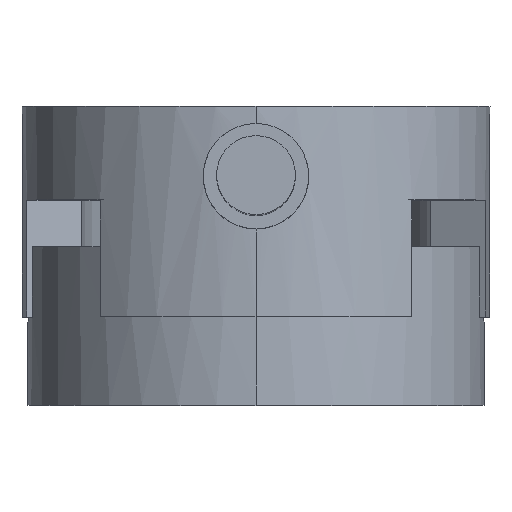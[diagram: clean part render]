
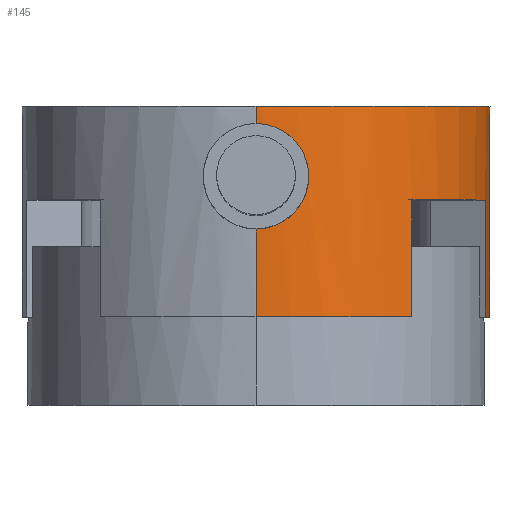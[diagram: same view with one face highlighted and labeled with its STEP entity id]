
A CAD part, top view. The second image highlights one B-rep face of the part: STEP entity #145.
In plain terms, the highlighted cylindrical face has radius 5.08 mm (diameter 10.16 mm), a partial arc.
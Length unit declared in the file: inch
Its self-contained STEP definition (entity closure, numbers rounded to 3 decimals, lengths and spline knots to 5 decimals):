
#32 = ORIENTED_EDGE ( 'NONE', *, *, #124, .F. ) ;
#33 = VERTEX_POINT ( 'NONE', #1243 ) ;
#76 = EDGE_CURVE ( 'NONE', #99, #33, #1122, .T. ) ;
#78 = ORIENTED_EDGE ( 'NONE', *, *, #76, .F. ) ;
#80 = EDGE_CURVE ( 'NONE', #149, #138, #1115, .T. ) ;
#81 = EDGE_CURVE ( 'NONE', #82, #151, #1110, .T. ) ;
#82 = VERTEX_POINT ( 'NONE', #1105 ) ;
#83 = ORIENTED_EDGE ( 'NONE', *, *, #84, .T. ) ;
#84 = EDGE_CURVE ( 'NONE', #82, #146, #1104, .T. ) ;
#94 = VERTEX_POINT ( 'NONE', #1049 ) ;
#95 = EDGE_CURVE ( 'NONE', #97, #94, #1048, .T. ) ;
#96 = ORIENTED_EDGE ( 'NONE', *, *, #95, .F. ) ;
#97 = VERTEX_POINT ( 'NONE', #1044 ) ;
#98 = VERTEX_POINT ( 'NONE', #1043 ) ;
#99 = VERTEX_POINT ( 'NONE', #1042 ) ;
#100 = ORIENTED_EDGE ( 'NONE', *, *, #101, .T. ) ;
#101 = EDGE_CURVE ( 'NONE', #98, #194, #1041, .T. ) ;
#102 = EDGE_CURVE ( 'NONE', #146, #94, #1037, .T. ) ;
#108 = EDGE_LOOP ( 'NONE', ( #134, #100, #144, #143, #137, #139, #141, #140, #83, #147, #96, #32, #78 ) ) ;
#124 = EDGE_CURVE ( 'NONE', #33, #97, #432, .T. ) ;
#134 = ORIENTED_EDGE ( 'NONE', *, *, #152, .F. ) ;
#136 = VERTEX_POINT ( 'NONE', #477 ) ;
#137 = ORIENTED_EDGE ( 'NONE', *, *, #148, .T. ) ;
#138 = VERTEX_POINT ( 'NONE', #446 ) ;
#139 = ORIENTED_EDGE ( 'NONE', *, *, #80, .T. ) ;
#140 = ORIENTED_EDGE ( 'NONE', *, *, #81, .F. ) ;
#141 = ORIENTED_EDGE ( 'NONE', *, *, #150, .F. ) ;
#142 = EDGE_CURVE ( 'NONE', #136, #196, #441, .T. ) ;
#143 = ORIENTED_EDGE ( 'NONE', *, *, #142, .F. ) ;
#144 = ORIENTED_EDGE ( 'NONE', *, *, #170, .F. ) ;
#145 = ADVANCED_FACE ( 'NONE', ( #458 ), #442, .T. ) ;
#146 = VERTEX_POINT ( 'NONE', #471 ) ;
#147 = ORIENTED_EDGE ( 'NONE', *, *, #102, .T. ) ;
#148 = EDGE_CURVE ( 'NONE', #136, #149, #468, .T. ) ;
#149 = VERTEX_POINT ( 'NONE', #464 ) ;
#150 = EDGE_CURVE ( 'NONE', #151, #138, #463, .T. ) ;
#151 = VERTEX_POINT ( 'NONE', #454 ) ;
#152 = EDGE_CURVE ( 'NONE', #98, #99, #452, .T. ) ;
#170 = EDGE_CURVE ( 'NONE', #196, #194, #556, .T. ) ;
#194 = VERTEX_POINT ( 'NONE', #523 ) ;
#196 = VERTEX_POINT ( 'NONE', #522 ) ;
#432 = CIRCLE ( 'NONE', #433, 0.2 ) ;
#433 = AXIS2_PLACEMENT_3D ( 'NONE', #488, #462, #444 ) ;
#439 = CARTESIAN_POINT ( 'NONE',  ( 0., 0.18, 0. ) ) ;
#440 = AXIS2_PLACEMENT_3D ( 'NONE', #439, #470, #469 ) ;
#441 = B_SPLINE_CURVE_WITH_KNOTS ( 'NONE', 3,
 ( #486, #483, #482, #481, #480, #476, #475, #474, #473, #472 ),
 .UNSPECIFIED., .F., .F.,
 ( 4, 2, 2, 2, 4 ),
 ( 0.00179, 0.00224, 0.00269, 0.00314, 0.00359 ),
 .UNSPECIFIED. ) ;
#442 = CYLINDRICAL_SURFACE ( 'NONE', #440, 0.2 ) ;
#444 = DIRECTION ( 'NONE',  ( 0., 0., -1. ) ) ;
#446 = CARTESIAN_POINT ( 'NONE',  ( 0.13328, 0., 0.14912 ) ) ;
#448 = DIRECTION ( 'NONE',  ( 0., 0., 1. ) ) ;
#449 = DIRECTION ( 'NONE',  ( 0., 1., 0. ) ) ;
#450 = CARTESIAN_POINT ( 'NONE',  ( 0., 0.18, 0. ) ) ;
#451 = AXIS2_PLACEMENT_3D ( 'NONE', #450, #449, #448 ) ;
#452 = CIRCLE ( 'NONE', #451, 0.2 ) ;
#454 = CARTESIAN_POINT ( 'NONE',  ( 0.13328, 0.1, 0.14912 ) ) ;
#455 = DIRECTION ( 'NONE',  ( 0., -1., 0. ) ) ;
#456 = VECTOR ( 'NONE', #455, 39.37008 ) ;
#457 = CARTESIAN_POINT ( 'NONE',  ( 0.13328, 0.1, 0.14912 ) ) ;
#458 = FACE_OUTER_BOUND ( 'NONE', #108, .T. ) ;
#462 = DIRECTION ( 'NONE',  ( 0., -1., 0. ) ) ;
#463 = LINE ( 'NONE', #457, #456 ) ;
#464 = CARTESIAN_POINT ( 'NONE',  ( 0., 0., 0.2 ) ) ;
#465 = DIRECTION ( 'NONE',  ( 0., -1., 0. ) ) ;
#466 = VECTOR ( 'NONE', #465, 39.37008 ) ;
#467 = CARTESIAN_POINT ( 'NONE',  ( 0., 0.18, 0.2 ) ) ;
#468 = LINE ( 'NONE', #467, #466 ) ;
#469 = DIRECTION ( 'NONE',  ( 0., 0., -1. ) ) ;
#470 = DIRECTION ( 'NONE',  ( 0., -1., 0. ) ) ;
#471 = CARTESIAN_POINT ( 'NONE',  ( 0.19578, 0., 0.04087 ) ) ;
#472 = CARTESIAN_POINT ( 'NONE',  ( 0.045, 0.12, 0.19487 ) ) ;
#473 = CARTESIAN_POINT ( 'NONE',  ( 0.045, 0.11412, 0.19487 ) ) ;
#474 = CARTESIAN_POINT ( 'NONE',  ( 0.04382, 0.1082, 0.19515 ) ) ;
#475 = CARTESIAN_POINT ( 'NONE',  ( 0.03931, 0.09733, 0.19611 ) ) ;
#476 = CARTESIAN_POINT ( 'NONE',  ( 0.03601, 0.09237, 0.19678 ) ) ;
#477 = CARTESIAN_POINT ( 'NONE',  ( 0., 0.075, 0.2 ) ) ;
#480 = CARTESIAN_POINT ( 'NONE',  ( 0.02766, 0.08402, 0.19812 ) ) ;
#481 = CARTESIAN_POINT ( 'NONE',  ( 0.02271, 0.0807, 0.19878 ) ) ;
#482 = CARTESIAN_POINT ( 'NONE',  ( 0.01179, 0.07617, 0.19973 ) ) ;
#483 = CARTESIAN_POINT ( 'NONE',  ( 0.00589, 0.075, 0.2 ) ) ;
#486 = CARTESIAN_POINT ( 'NONE',  ( 0., 0.075, 0.2 ) ) ;
#488 = CARTESIAN_POINT ( 'NONE',  ( 0., 0.1, 0. ) ) ;
#508 = CARTESIAN_POINT ( 'NONE',  ( 0.045, 0.12, 0.19487 ) ) ;
#515 = CARTESIAN_POINT ( 'NONE',  ( 0.0118, 0.16383, 0.19973 ) ) ;
#516 = CARTESIAN_POINT ( 'NONE',  ( 0.02274, 0.15928, 0.19878 ) ) ;
#517 = CARTESIAN_POINT ( 'NONE',  ( 0.02768, 0.15596, 0.19812 ) ) ;
#518 = CARTESIAN_POINT ( 'NONE',  ( 0.03598, 0.14766, 0.19678 ) ) ;
#522 = CARTESIAN_POINT ( 'NONE',  ( 0.045, 0.12, 0.19487 ) ) ;
#523 = CARTESIAN_POINT ( 'NONE',  ( 0., 0.165, 0.2 ) ) ;
#551 = CARTESIAN_POINT ( 'NONE',  ( 0., 0.165, 0.2 ) ) ;
#552 = CARTESIAN_POINT ( 'NONE',  ( 0.00594, 0.165, 0.2 ) ) ;
#553 = CARTESIAN_POINT ( 'NONE',  ( 0.03932, 0.14266, 0.19611 ) ) ;
#554 = CARTESIAN_POINT ( 'NONE',  ( 0.04381, 0.13182, 0.19516 ) ) ;
#555 = CARTESIAN_POINT ( 'NONE',  ( 0.045, 0.12588, 0.19487 ) ) ;
#556 = B_SPLINE_CURVE_WITH_KNOTS ( 'NONE', 3,
 ( #508, #555, #554, #553, #518, #517, #516, #515, #552, #551 ),
 .UNSPECIFIED., .F., .F.,
 ( 4, 2, 2, 2, 4 ),
 ( 0.00359, 0.00403, 0.00448, 0.00493, 0.00538 ),
 .UNSPECIFIED. ) ;
#1037 = CIRCLE ( 'NONE', #1082, 0.2 ) ;
#1038 = DIRECTION ( 'NONE',  ( 0., -1., 0. ) ) ;
#1039 = VECTOR ( 'NONE', #1038, 39.37008 ) ;
#1040 = CARTESIAN_POINT ( 'NONE',  ( 0., 0.18, 0.2 ) ) ;
#1041 = LINE ( 'NONE', #1040, #1039 ) ;
#1042 = CARTESIAN_POINT ( 'NONE',  ( 0., 0.18, -0.2 ) ) ;
#1043 = CARTESIAN_POINT ( 'NONE',  ( 0., 0.18, 0.2 ) ) ;
#1044 = CARTESIAN_POINT ( 'NONE',  ( 0.0625, 0.1, -0.18998 ) ) ;
#1045 = DIRECTION ( 'NONE',  ( 0., -1., 0. ) ) ;
#1046 = VECTOR ( 'NONE', #1045, 39.37008 ) ;
#1047 = CARTESIAN_POINT ( 'NONE',  ( 0.0625, 0.1, -0.18998 ) ) ;
#1048 = LINE ( 'NONE', #1047, #1046 ) ;
#1049 = CARTESIAN_POINT ( 'NONE',  ( 0.0625, 0., -0.18998 ) ) ;
#1079 = DIRECTION ( 'NONE',  ( 0., 0., 1. ) ) ;
#1080 = DIRECTION ( 'NONE',  ( 0., 1., 0. ) ) ;
#1081 = CARTESIAN_POINT ( 'NONE',  ( 0., 0., 0. ) ) ;
#1082 = AXIS2_PLACEMENT_3D ( 'NONE', #1081, #1080, #1079 ) ;
#1101 = DIRECTION ( 'NONE',  ( 0., -1., 0. ) ) ;
#1102 = VECTOR ( 'NONE', #1101, 39.37008 ) ;
#1103 = CARTESIAN_POINT ( 'NONE',  ( 0.19578, 0.1, 0.04087 ) ) ;
#1104 = LINE ( 'NONE', #1103, #1102 ) ;
#1105 = CARTESIAN_POINT ( 'NONE',  ( 0.19578, 0.1, 0.04087 ) ) ;
#1106 = DIRECTION ( 'NONE',  ( 0., 0., -1. ) ) ;
#1107 = DIRECTION ( 'NONE',  ( 0., -1., 0. ) ) ;
#1108 = CARTESIAN_POINT ( 'NONE',  ( 0., 0.1, 0. ) ) ;
#1109 = AXIS2_PLACEMENT_3D ( 'NONE', #1108, #1107, #1106 ) ;
#1110 = CIRCLE ( 'NONE', #1109, 0.2 ) ;
#1111 = DIRECTION ( 'NONE',  ( 0., 0., 1. ) ) ;
#1112 = DIRECTION ( 'NONE',  ( 0., 1., 0. ) ) ;
#1113 = CARTESIAN_POINT ( 'NONE',  ( 0., 0., 0. ) ) ;
#1114 = AXIS2_PLACEMENT_3D ( 'NONE', #1113, #1112, #1111 ) ;
#1115 = CIRCLE ( 'NONE', #1114, 0.2 ) ;
#1119 = DIRECTION ( 'NONE',  ( 0., -1., 0. ) ) ;
#1120 = VECTOR ( 'NONE', #1119, 39.37008 ) ;
#1121 = CARTESIAN_POINT ( 'NONE',  ( 0., 0.18, -0.2 ) ) ;
#1122 = LINE ( 'NONE', #1121, #1120 ) ;
#1243 = CARTESIAN_POINT ( 'NONE',  ( 0., 0.1, -0.2 ) ) ;
